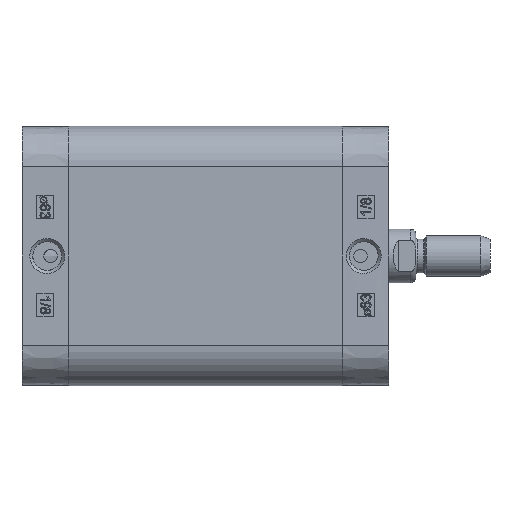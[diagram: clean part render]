
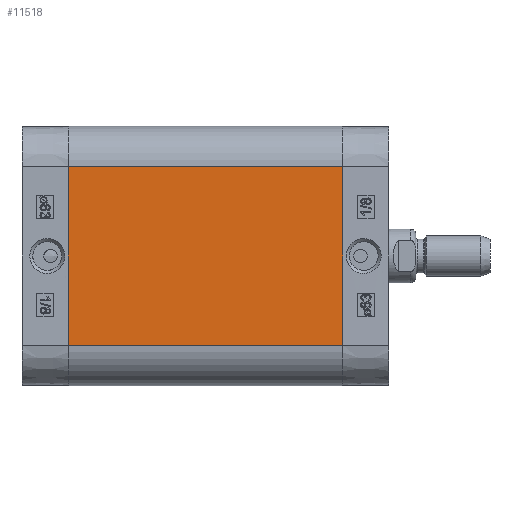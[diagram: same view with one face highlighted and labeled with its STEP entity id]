
A CAD part, left-side view. The second image highlights one B-rep face of the part: STEP entity #11518.
In plain terms, the highlighted planar face has unit normal (-1, 0, 0).
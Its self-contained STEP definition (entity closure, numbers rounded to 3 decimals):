
#5848=CARTESIAN_POINT('',(-38.5,-81.5,26.5));
#5849=VERTEX_POINT('',#5848);
#5856=CARTESIAN_POINT('',(-38.5,-81.5,-26.5));
#5857=VERTEX_POINT('',#5856);
#5858=CARTESIAN_POINT('',(-38.5,-81.5,-26.5));
#5859=DIRECTION('',(0.0,0.0,1.0));
#5860=VECTOR('',#5859,53.0);
#5861=LINE('',#5858,#5860);
#5862=EDGE_CURVE('',#5857,#5849,#5861,.T.);
#11476=CARTESIAN_POINT('',(-38.5,0.0,-26.5));
#11477=VERTEX_POINT('',#11476);
#11478=CARTESIAN_POINT('',(-38.5,0.0,-26.5));
#11479=DIRECTION('',(0.0,-1.0,0.0));
#11480=VECTOR('',#11479,81.5);
#11481=LINE('',#11478,#11480);
#11482=EDGE_CURVE('',#11477,#5857,#11481,.T.);
#11495=CARTESIAN_POINT('',(-38.5,0.0,-26.5));
#11496=DIRECTION('',(-1.0,0.0,0.0));
#11497=DIRECTION('',(0.0,0.0,1.0));
#11498=AXIS2_PLACEMENT_3D('',#11495,#11496,#11497);
#11499=PLANE('',#11498);
#11500=ORIENTED_EDGE('',*,*,#5862,.T.);
#11501=CARTESIAN_POINT('',(-38.5,0.0,26.5));
#11502=VERTEX_POINT('',#11501);
#11503=CARTESIAN_POINT('',(-38.5,0.0,26.5));
#11504=DIRECTION('',(0.0,-1.0,0.0));
#11505=VECTOR('',#11504,81.5);
#11506=LINE('',#11503,#11505);
#11507=EDGE_CURVE('',#11502,#5849,#11506,.T.);
#11508=ORIENTED_EDGE('',*,*,#11507,.F.);
#11509=CARTESIAN_POINT('',(-38.5,0.0,-26.5));
#11510=DIRECTION('',(0.0,0.0,1.0));
#11511=VECTOR('',#11510,53.0);
#11512=LINE('',#11509,#11511);
#11513=EDGE_CURVE('',#11477,#11502,#11512,.T.);
#11514=ORIENTED_EDGE('',*,*,#11513,.F.);
#11515=ORIENTED_EDGE('',*,*,#11482,.T.);
#11516=EDGE_LOOP('',(#11500,#11508,#11514,#11515));
#11517=FACE_OUTER_BOUND('',#11516,.T.);
#11518=ADVANCED_FACE('',(#11517),#11499,.T.);
